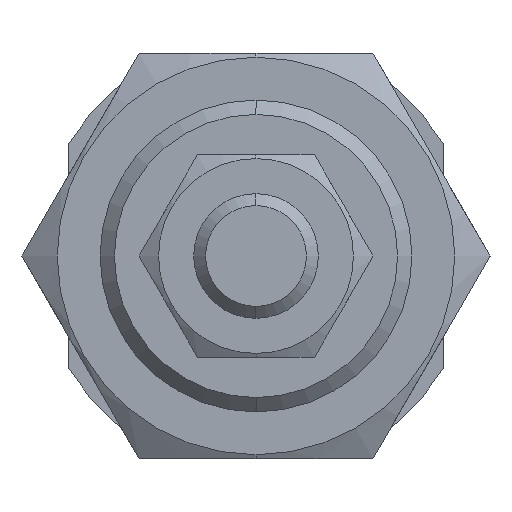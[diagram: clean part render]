
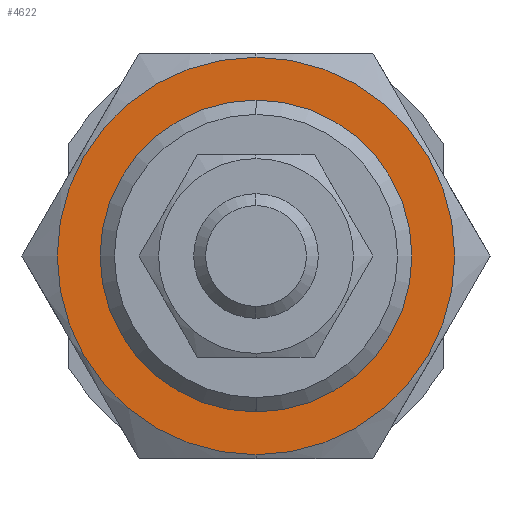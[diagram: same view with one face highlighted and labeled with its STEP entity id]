
A CAD part, left-side view. The second image highlights one B-rep face of the part: STEP entity #4622.
In plain terms, the highlighted planar face has unit normal (-1, 0, 0).
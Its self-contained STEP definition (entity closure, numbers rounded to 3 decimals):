
#261 = DIRECTION ( 'NONE',  ( 0., 0., -1. ) ) ;
#269 = CARTESIAN_POINT ( 'NONE',  ( -11., 0., 0. ) ) ;
#381 = DIRECTION ( 'NONE',  ( 1., 0., 0. ) ) ;
#436 = AXIS2_PLACEMENT_3D ( 'NONE', #269, #4451, #3151 ) ;
#487 = VERTEX_POINT ( 'NONE', #576 ) ;
#576 = CARTESIAN_POINT ( 'NONE',  ( -11., 0., -12.75 ) ) ;
#796 = CARTESIAN_POINT ( 'NONE',  ( -11., 0., 0. ) ) ;
#878 = FACE_BOUND ( 'NONE', #3613, .T. ) ;
#885 = ORIENTED_EDGE ( 'NONE', *, *, #1029, .F. ) ;
#1025 = VERTEX_POINT ( 'NONE', #2380 ) ;
#1029 = EDGE_CURVE ( 'NONE', #1025, #487, #2139, .T. ) ;
#1141 = DIRECTION ( 'NONE',  ( 0., 0., -1. ) ) ;
#1317 = CARTESIAN_POINT ( 'NONE',  ( -11., 0., 10. ) ) ;
#1419 = DIRECTION ( 'NONE',  ( 1., 0., 0. ) ) ;
#1946 = EDGE_CURVE ( 'NONE', #3110, #2147, #2722, .T. ) ;
#2090 = PLANE ( 'NONE',  #3598 ) ;
#2139 = CIRCLE ( 'NONE', #4865, 12.75 ) ;
#2147 = VERTEX_POINT ( 'NONE', #2250 ) ;
#2243 = EDGE_CURVE ( 'NONE', #2147, #3110, #3612, .T. ) ;
#2250 = CARTESIAN_POINT ( 'NONE',  ( -11., 0., -10. ) ) ;
#2350 = DIRECTION ( 'NONE',  ( 1., 0., 0. ) ) ;
#2380 = CARTESIAN_POINT ( 'NONE',  ( -11., 0., 12.75 ) ) ;
#2722 = CIRCLE ( 'NONE', #3962, 10. ) ;
#2756 = CARTESIAN_POINT ( 'NONE',  ( -11., 0., 0. ) ) ;
#2930 = DIRECTION ( 'NONE',  ( 0., 1., 0. ) ) ;
#3110 = VERTEX_POINT ( 'NONE', #1317 ) ;
#3151 = DIRECTION ( 'NONE',  ( 0., 0., -1. ) ) ;
#3317 = FACE_OUTER_BOUND ( 'NONE', #5092, .T. ) ;
#3341 = ORIENTED_EDGE ( 'NONE', *, *, #2243, .T. ) ;
#3587 = DIRECTION ( 'NONE',  ( 1., 0., 0. ) ) ;
#3598 = AXIS2_PLACEMENT_3D ( 'NONE', #796, #381, #2930 ) ;
#3612 = CIRCLE ( 'NONE', #3876, 10. ) ;
#3613 = EDGE_LOOP ( 'NONE', ( #4655, #3341 ) ) ;
#3856 = CIRCLE ( 'NONE', #436, 12.75 ) ;
#3876 = AXIS2_PLACEMENT_3D ( 'NONE', #4303, #1419, #4802 ) ;
#3962 = AXIS2_PLACEMENT_3D ( 'NONE', #2756, #2350, #261 ) ;
#4303 = CARTESIAN_POINT ( 'NONE',  ( -11., 0., 0. ) ) ;
#4451 = DIRECTION ( 'NONE',  ( 1., 0., 0. ) ) ;
#4524 = ORIENTED_EDGE ( 'NONE', *, *, #4766, .F. ) ;
#4622 = ADVANCED_FACE ( 'NONE', ( #3317, #878 ), #2090, .F. ) ;
#4655 = ORIENTED_EDGE ( 'NONE', *, *, #1946, .T. ) ;
#4766 = EDGE_CURVE ( 'NONE', #487, #1025, #3856, .T. ) ;
#4802 = DIRECTION ( 'NONE',  ( 0., 0., -1. ) ) ;
#4865 = AXIS2_PLACEMENT_3D ( 'NONE', #5301, #3587, #1141 ) ;
#5092 = EDGE_LOOP ( 'NONE', ( #4524, #885 ) ) ;
#5301 = CARTESIAN_POINT ( 'NONE',  ( -11., 0., 0. ) ) ;
